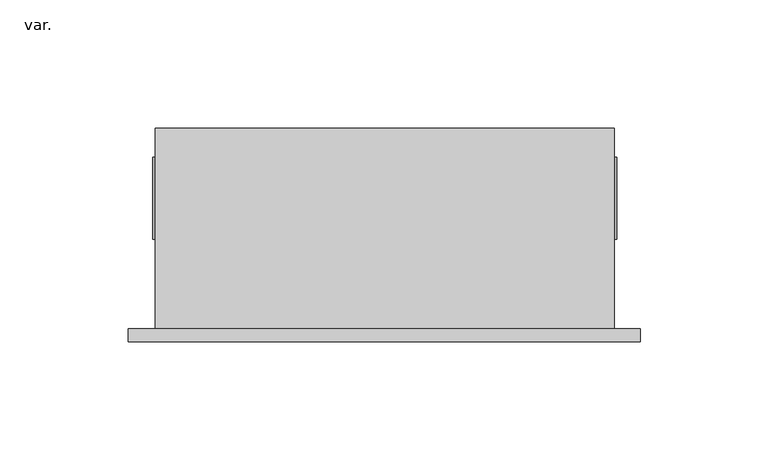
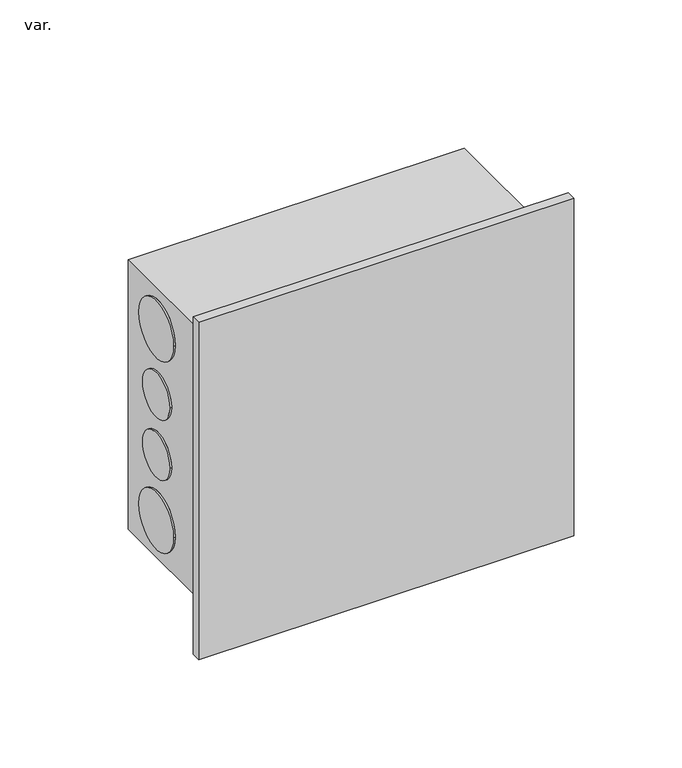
"""IFC4 building model written with IfcOpenShell, lengths in millimetres: pipe fitting geometry, AmancoWavin_ConexõesdoConduite_LinhaEletricaCorrugadoCaixadePassagemdeParedePequena : var.."""

from ifc_helpers import new_model, si_unit, frame, origin, place, context, project, spatial, polyline, circle_curve, source, transform, mapped, element, save
from ifc_brep_helpers import plane_surface, cylinder_surface, revolved_surface, advanced_brep


def var_4c39e476(model_context):
    return source(origin(), model_context, "Body", "AdvancedBrep", [
        advanced_brep(
        [(100.0, 5.0, 95.2), (100.0, 5.0, -95.2), (-100.0, 5.0, -95.2), (-100.0, 5.0, 95.2), (90.0, 5.0, -76.0), (90.0, 5.0, 76.0), (-89.3361693, 5.0, 76.0), (-89.3361693, 5.0, -76.0), (100.0, 0.0, 95.2), (100.0, 0.0, -95.2), (-100.0, 0.0, -95.2), (-100.0, 0.0, 95.2), (90.0, 83.5, 76.0), (90.0, 83.5, -76.0), (-89.3361693, 83.5, -76.0), (-89.3361693, 83.5, 76.0), (-50.5, 83.5, 50.0), (-82.5, 83.5, 50.0), (-50.5, 83.5, -50.0), (-82.5, 83.5, -50.0), (50.5, 83.5, 50.0), (82.5, 83.5, 50.0), (50.5, 83.5, -50.0), (82.5, 83.5, -50.0), (90.0, 43.5, 17.0), (90.0, 68.5, 17.0), (90.0, 40.0, 54.0), (90.0, 72.0, 54.0), (90.0, 43.5, -17.0), (90.0, 68.5, -17.0), (90.0, 40.0, -54.0), (90.0, 72.0, -54.0), (-89.3361693, 68.5, 17.0), (-89.3361693, 43.5, 17.0), (-89.3361693, 72.0, 54.0), (-89.3361693, 40.0, 54.0), (-89.3361693, 68.5, -17.0), (-89.3361693, 43.5, -17.0), (-89.3361693, 72.0, -54.0), (-89.3361693, 40.0, -54.0), (-82.5, 82.5, 50.0), (-50.5, 82.5, 50.0), (-82.5, 82.5, -50.0), (-50.5, 82.5, -50.0), (82.5, 82.5, 50.0), (50.5, 82.5, 50.0), (82.5, 82.5, -50.0), (50.5, 82.5, -50.0), (-90.3361693, 43.5, 17.0), (-90.3361693, 68.5, 17.0), (-90.3361693, 40.0, 54.0), (-90.3361693, 72.0, 54.0), (-90.3361693, 43.5, -17.0), (-90.3361693, 68.5, -17.0), (-90.3361693, 40.0, -54.0), (-90.3361693, 72.0, -54.0), (91.0, 43.5, 17.0), (91.0, 68.5, 17.0), (91.0, 40.0, 54.0), (91.0, 72.0, 54.0), (91.0, 43.5, -17.0), (91.0, 68.5, -17.0), (91.0, 40.0, -54.0), (91.0, 72.0, -54.0)],
        [
            (0, 1),
            (1, 2),
            (2, 3),
            (3, 0),
            (4, 5),
            (5, 6),
            (6, 7),
            (7, 4),
            (0, 8),
            (8, 9),
            (9, 1),
            (9, 10),
            (10, 2),
            (10, 11),
            (11, 3),
            (11, 8),
            (12, 13),
            (13, 14),
            (14, 15),
            (15, 12),
            (16, 17, circle_curve(frame((-66.5, 83.5, 50.0), z_axis=(0.0, -1.0, 0.0), x_axis=(1.0, 0.0, 0.0)), 16.0)),
            (17, 16, circle_curve(frame((-66.5, 83.5, 50.0), z_axis=(0.0, -1.0, 0.0), x_axis=(1.0, 0.0, 0.0)), 16.0)),
            (18, 19, circle_curve(frame((-66.5, 83.5, -50.0), z_axis=(0.0, -1.0, 0.0), x_axis=(1.0, 0.0, 0.0)), 16.0)),
            (19, 18, circle_curve(frame((-66.5, 83.5, -50.0), z_axis=(0.0, -1.0, 0.0), x_axis=(1.0, 0.0, 0.0)), 16.0)),
            (20, 21, circle_curve(frame((66.5, 83.5, 50.0), z_axis=(0.0, -1.0, 0.0), x_axis=(-1.0, 0.0, 0.0)), 16.0)),
            (21, 20, circle_curve(frame((66.5, 83.5, 50.0), z_axis=(0.0, -1.0, 0.0), x_axis=(-1.0, 0.0, 0.0)), 16.0)),
            (22, 23, circle_curve(frame((66.5, 83.5, -50.0), z_axis=(0.0, -1.0, 0.0), x_axis=(-1.0, 0.0, 0.0)), 16.0)),
            (23, 22, circle_curve(frame((66.5, 83.5, -50.0), z_axis=(0.0, -1.0, 0.0), x_axis=(-1.0, 0.0, 0.0)), 16.0)),
            (12, 5),
            (4, 13),
            (24, 25, circle_curve(frame((90.0, 56.0, 17.0), z_axis=(-1.0, 0.0, 0.0), x_axis=(0.0, 1.0, 0.0)), 12.5)),
            (25, 24, circle_curve(frame((90.0, 56.0, 17.0), z_axis=(-1.0, 0.0, 0.0), x_axis=(0.0, 1.0, 0.0)), 12.5)),
            (26, 27, circle_curve(frame((90.0, 56.0, 54.0), z_axis=(-1.0, 0.0, 0.0), x_axis=(0.0, 1.0, 0.0)), 16.0)),
            (27, 26, circle_curve(frame((90.0, 56.0, 54.0), z_axis=(-1.0, 0.0, 0.0), x_axis=(0.0, 1.0, 0.0)), 16.0)),
            (28, 29, circle_curve(frame((90.0, 56.0, -17.0), z_axis=(-1.0, 0.0, 0.0), x_axis=(0.0, 1.0, 0.0)), 12.5)),
            (29, 28, circle_curve(frame((90.0, 56.0, -17.0), z_axis=(-1.0, 0.0, 0.0), x_axis=(0.0, 1.0, 0.0)), 12.5)),
            (30, 31, circle_curve(frame((90.0, 56.0, -54.0), z_axis=(-1.0, 0.0, 0.0), x_axis=(0.0, 1.0, 0.0)), 16.0)),
            (31, 30, circle_curve(frame((90.0, 56.0, -54.0), z_axis=(-1.0, 0.0, 0.0), x_axis=(0.0, 1.0, 0.0)), 16.0)),
            (7, 14),
            (6, 15),
            (32, 33, circle_curve(frame((-89.3361693, 56.0, 17.0), z_axis=(1.0, 0.0, 0.0), x_axis=(0.0, 1.0, 0.0)), 12.5)),
            (33, 32, circle_curve(frame((-89.3361693, 56.0, 17.0), z_axis=(1.0, 0.0, 0.0), x_axis=(0.0, 1.0, 0.0)), 12.5)),
            (34, 35, circle_curve(frame((-89.3361693, 56.0, 54.0), z_axis=(1.0, 0.0, 0.0), x_axis=(0.0, 1.0, 0.0)), 16.0)),
            (35, 34, circle_curve(frame((-89.3361693, 56.0, 54.0), z_axis=(1.0, 0.0, 0.0), x_axis=(0.0, 1.0, 0.0)), 16.0)),
            (36, 37, circle_curve(frame((-89.3361693, 56.0, -17.0), z_axis=(1.0, 0.0, 0.0), x_axis=(0.0, 1.0, 0.0)), 12.5)),
            (37, 36, circle_curve(frame((-89.3361693, 56.0, -17.0), z_axis=(1.0, 0.0, 0.0), x_axis=(0.0, 1.0, 0.0)), 12.5)),
            (38, 39, circle_curve(frame((-89.3361693, 56.0, -54.0), z_axis=(1.0, 0.0, 0.0), x_axis=(0.0, 1.0, 0.0)), 16.0)),
            (39, 38, circle_curve(frame((-89.3361693, 56.0, -54.0), z_axis=(1.0, 0.0, 0.0), x_axis=(0.0, 1.0, 0.0)), 16.0)),
            (40, 41, circle_curve(frame((-66.5, 82.5, 50.0), z_axis=(0.0, 1.0, 0.0), x_axis=(1.0, 0.0, 0.0)), 16.0)),
            (41, 40, circle_curve(frame((-66.5, 82.5, 50.0), z_axis=(0.0, 1.0, 0.0), x_axis=(1.0, 0.0, 0.0)), 16.0)),
            (42, 43, circle_curve(frame((-66.5, 82.5, -50.0), z_axis=(0.0, 1.0, 0.0), x_axis=(1.0, 0.0, 0.0)), 16.0)),
            (43, 42, circle_curve(frame((-66.5, 82.5, -50.0), z_axis=(0.0, 1.0, 0.0), x_axis=(1.0, 0.0, 0.0)), 16.0)),
            (44, 45, circle_curve(frame((66.5, 82.5, 50.0), z_axis=(0.0, 1.0, 0.0), x_axis=(-1.0, 0.0, 0.0)), 16.0)),
            (45, 44, circle_curve(frame((66.5, 82.5, 50.0), z_axis=(0.0, 1.0, 0.0), x_axis=(-1.0, 0.0, 0.0)), 16.0)),
            (46, 47, circle_curve(frame((66.5, 82.5, -50.0), z_axis=(0.0, 1.0, 0.0), x_axis=(-1.0, 0.0, 0.0)), 16.0)),
            (47, 46, circle_curve(frame((66.5, 82.5, -50.0), z_axis=(0.0, 1.0, 0.0), x_axis=(-1.0, 0.0, 0.0)), 16.0)),
            (40, 17),
            (16, 41),
            (48, 49, circle_curve(frame((-90.3361693, 56.0, 17.0), z_axis=(-1.0, 0.0, 0.0), x_axis=(0.0, 1.0, 0.0)), 12.5)),
            (49, 48, circle_curve(frame((-90.3361693, 56.0, 17.0), z_axis=(-1.0, 0.0, 0.0), x_axis=(0.0, 1.0, 0.0)), 12.5)),
            (50, 51, circle_curve(frame((-90.3361693, 56.0, 54.0), z_axis=(-1.0, 0.0, 0.0), x_axis=(0.0, 1.0, 0.0)), 16.0)),
            (51, 50, circle_curve(frame((-90.3361693, 56.0, 54.0), z_axis=(-1.0, 0.0, 0.0), x_axis=(0.0, 1.0, 0.0)), 16.0)),
            (52, 53, circle_curve(frame((-90.3361693, 56.0, -17.0), z_axis=(-1.0, 0.0, 0.0), x_axis=(0.0, 1.0, 0.0)), 12.5)),
            (53, 52, circle_curve(frame((-90.3361693, 56.0, -17.0), z_axis=(-1.0, 0.0, 0.0), x_axis=(0.0, 1.0, 0.0)), 12.5)),
            (54, 55, circle_curve(frame((-90.3361693, 56.0, -54.0), z_axis=(-1.0, 0.0, 0.0), x_axis=(0.0, 1.0, 0.0)), 16.0)),
            (55, 54, circle_curve(frame((-90.3361693, 56.0, -54.0), z_axis=(-1.0, 0.0, 0.0), x_axis=(0.0, 1.0, 0.0)), 16.0)),
            (56, 57, circle_curve(frame((91.0, 56.0, 17.0), z_axis=(1.0, 0.0, 0.0), x_axis=(0.0, 1.0, 0.0)), 12.5)),
            (57, 56, circle_curve(frame((91.0, 56.0, 17.0), z_axis=(1.0, 0.0, 0.0), x_axis=(0.0, 1.0, 0.0)), 12.5)),
            (58, 59, circle_curve(frame((91.0, 56.0, 54.0), z_axis=(1.0, 0.0, 0.0), x_axis=(0.0, 1.0, 0.0)), 16.0)),
            (59, 58, circle_curve(frame((91.0, 56.0, 54.0), z_axis=(1.0, 0.0, 0.0), x_axis=(0.0, 1.0, 0.0)), 16.0)),
            (60, 61, circle_curve(frame((91.0, 56.0, -17.0), z_axis=(1.0, 0.0, 0.0), x_axis=(0.0, 1.0, 0.0)), 12.5)),
            (61, 60, circle_curve(frame((91.0, 56.0, -17.0), z_axis=(1.0, 0.0, 0.0), x_axis=(0.0, 1.0, 0.0)), 12.5)),
            (62, 63, circle_curve(frame((91.0, 56.0, -54.0), z_axis=(1.0, 0.0, 0.0), x_axis=(0.0, 1.0, 0.0)), 16.0)),
            (63, 62, circle_curve(frame((91.0, 56.0, -54.0), z_axis=(1.0, 0.0, 0.0), x_axis=(0.0, 1.0, 0.0)), 16.0)),
            (48, 33),
            (32, 49),
            (57, 25),
            (24, 56),
            (50, 35),
            (34, 51),
            (59, 27),
            (26, 58),
            (52, 37),
            (36, 53),
            (61, 29),
            (28, 60),
            (54, 39),
            (38, 55),
            (63, 31),
            (30, 62),
            (42, 19),
            (18, 43),
            (44, 21),
            (20, 45),
            (46, 23),
            (22, 47),
        ],
        [
            plane_surface(frame((100.0, 5.0, 200.5423623), z_axis=(0.0, 1.0, 0.0), x_axis=(0.0, 0.0, -1.0))),
            plane_surface(frame((100.0, 5.0, 95.2), z_axis=(1.0, 0.0, 0.0), x_axis=(0.0, -1.0, 0.0))),
            plane_surface(frame((100.0, 5.0, -95.2), z_axis=(0.0, 0.0, -1.0), x_axis=(0.0, -1.0, 0.0))),
            plane_surface(frame((-100.0, 5.0, -95.2), z_axis=(-1.0, 0.0, 0.0), x_axis=(0.0, -1.0, 0.0))),
            plane_surface(frame((-100.0, 5.0, 95.2), z_axis=(0.0, 0.0, 1.0), x_axis=(0.0, -1.0, 0.0))),
            plane_surface(frame((90.0, 83.5, 132.4195146), z_axis=(0.0, 1.0, 0.0), x_axis=(0.0, 0.0, -1.0))),
            plane_surface(frame((90.0, 0.0, 132.4195146), z_axis=(0.0, -1.0, 0.0), x_axis=(0.0, 0.0, 1.0))),
            plane_surface(frame((90.0, 83.5, 76.0), z_axis=(1.0, 0.0, 0.0), x_axis=(0.0, -1.0, 0.0))),
            plane_surface(frame((90.0, 83.5, -76.0), z_axis=(0.0, 0.0, -1.0), x_axis=(0.0, -1.0, 0.0))),
            plane_surface(frame((-89.3361693, 83.5, -76.0), z_axis=(-1.0, 0.0, 0.0), x_axis=(0.0, -1.0, 0.0))),
            plane_surface(frame((-89.3361693, 83.5, 76.0), z_axis=(0.0, 0.0, 1.0), x_axis=(0.0, -1.0, 0.0))),
            plane_surface(frame((-50.5, 82.5, 50.0), z_axis=(0.0, 1.0, 0.0), x_axis=(0.0, 0.0, 1.0))),
            revolved_surface(polyline([(-50.5, 83.5, 50.0), (-50.5, 82.5, 50.0)]), (-66.5, 82.5, 50.0), (0.0, 1.0, 0.0)),
            plane_surface(frame((-90.3361693, 68.5, 17.0), z_axis=(-1.0, 0.0, 0.0), x_axis=(0.0, 0.0, -1.0))),
            plane_surface(frame((91.0, 68.5, 17.0), z_axis=(1.0, 0.0, 0.0), x_axis=(0.0, 0.0, 1.0))),
            cylinder_surface(frame((91.0, 56.0, 17.0), z_axis=(-1.0, 0.0, 0.0), x_axis=(0.0, 1.0, 0.0)), 12.5),
            cylinder_surface(frame((0.0, 56.0, 54.0), z_axis=(-1.0, 0.0, 0.0), x_axis=(0.0, 1.0, 0.0)), 16.0),
            cylinder_surface(frame((0.0, 56.0, -17.0), z_axis=(-1.0, 0.0, 0.0), x_axis=(0.0, 1.0, 0.0)), 12.5),
            cylinder_surface(frame((0.0, 56.0, -54.0), z_axis=(-1.0, 0.0, 0.0), x_axis=(0.0, 1.0, 0.0)), 16.0),
            revolved_surface(polyline([(-50.5, 83.5, -50.0), (-50.5, 82.5, -50.0)]), (-66.5, 0.0, -50.0), (0.0, 1.0, 0.0)),
            revolved_surface(polyline([(50.5, 83.5, 50.0), (50.5, 82.5, 50.0)]), (66.5, 0.0, 50.0), (0.0, 1.0, 0.0)),
            revolved_surface(polyline([(50.5, 83.5, -50.0), (50.5, 82.5, -50.0)]), (66.5, 0.0, -50.0), (0.0, 1.0, 0.0)),
        ],
        [
            (0, [[1, 2, 3, 4], [5, 6, 7, 8]]),
            (1, [[-1, 9, 10, 11]]),
            (2, [[-2, -11, 12, 13]]),
            (3, [[-3, -13, 14, 15]]),
            (4, [[-4, -15, 16, -9]]),
            (5, [[17, 18, 19, 20], [21, 22], [23, 24], [25, 26], [27, 28]]),
            (6, [[-16, -14, -12, -10]]),
            (7, [[-17, 29, -5, 30], [31, 32], [33, 34], [35, 36], [37, 38]]),
            (8, [[-18, -30, -8, 39]]),
            (9, [[-19, -39, -7, 40], [41, 42], [43, 44], [45, 46], [47, 48]]),
            (10, [[-20, -40, -6, -29]]),
            (11, [[49, 50]]),
            (11, [[51, 52]]),
            (11, [[53, 54]]),
            (11, [[55, 56]]),
            (12, [[-49, 57, -21, 58]]),
            (12, [[-50, -58, -22, -57]]),
            (13, [[59, 60]]),
            (13, [[61, 62]]),
            (13, [[63, 64]]),
            (13, [[65, 66]]),
            (14, [[67, 68]]),
            (14, [[69, 70]]),
            (14, [[71, 72]]),
            (14, [[73, 74]]),
            (15, [[-59, 75, -41, 76]]),
            (15, [[-68, 77, -31, 78]]),
            (15, [[-60, -76, -42, -75]]),
            (15, [[-67, -78, -32, -77]]),
            (16, [[-61, 79, -43, 80]]),
            (16, [[-70, 81, -33, 82]]),
            (16, [[-62, -80, -44, -79]]),
            (16, [[-69, -82, -34, -81]]),
            (17, [[-63, 83, -45, 84]]),
            (17, [[-72, 85, -35, 86]]),
            (17, [[-64, -84, -46, -83]]),
            (17, [[-71, -86, -36, -85]]),
            (18, [[-65, 87, -47, 88]]),
            (18, [[-74, 89, -37, 90]]),
            (18, [[-66, -88, -48, -87]]),
            (18, [[-73, -90, -38, -89]]),
            (19, [[-51, 91, -23, 92]]),
            (19, [[-52, -92, -24, -91]]),
            (20, [[-53, 93, -25, 94]]),
            (20, [[-54, -94, -26, -93]]),
            (21, [[-55, 95, -27, 96]]),
            (21, [[-56, -96, -28, -95]]),
        ],
    ),
    ])


if __name__ == "__main__":
    model = new_model("IFC4")
    model_context = context("Model", 3, world=origin())
    ifc_project = project(units=[si_unit("LENGTHUNIT", "METRE", prefix="MILLI")], contexts=[model_context])
    site = spatial("IfcSite", under=ifc_project)
    building = spatial("IfcBuilding", under=site)
    placement = place(None, origin())
    var_shape = var_4c39e476(model_context)
    element("IfcPipeFitting", 1, ObjectType="AmancoWavin_ConexõesdoConduite_LinhaEletricaCorrugadoCaixadePassagemdeParedePequena : var.", at=placement, inside=building, context=model_context, shape_type="MappedRepresentation", body=[
        mapped(var_shape, transform((0.0, 0.0, 0.0), x_axis=(1.0, 0.0, 0.0), y_axis=(0.0, 1.0, 0.0), z_axis=(0.0, 0.0, 1.0))),
    ])
    save(model, "model.ifc")
